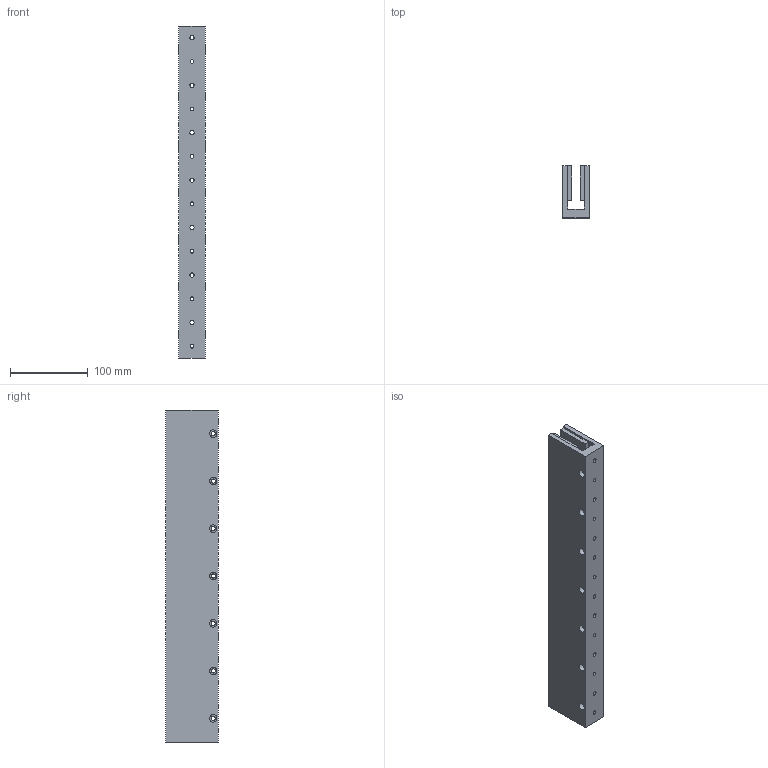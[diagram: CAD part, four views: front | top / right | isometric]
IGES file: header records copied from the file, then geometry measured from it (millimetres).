
Global section: file name: No Iges File Name specified; native system: Autodesk Inventor 2012; preprocessor: AutoDesk Inventor Iges Exporter R2012; author: je17857; date: 20120511.155305; units: inch
Bounding box: 34.29 x 67.31 x 426.47 mm (x, y, z)
Volume: 628723.6 mm3; surface area: 165574.3 mm2
Topology: 1 solids, 1 shells, 213 faces, 493 edges, 331 vertices
Faces by surface type: plane 171, revolution 42
